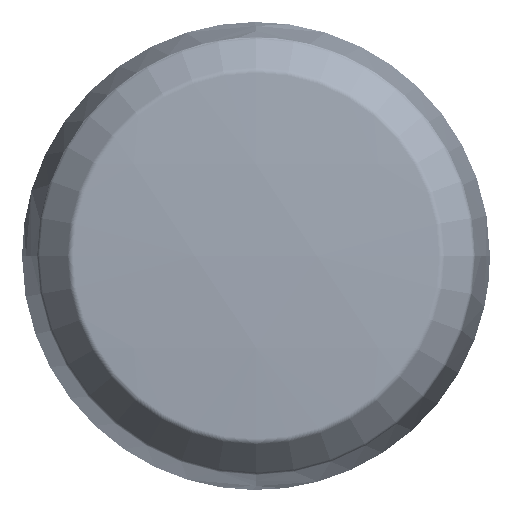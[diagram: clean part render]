
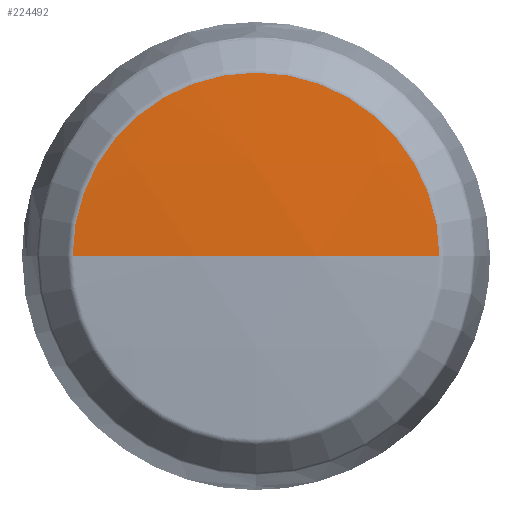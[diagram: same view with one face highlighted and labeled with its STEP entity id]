
A CAD part, front view. The second image highlights one B-rep face of the part: STEP entity #224492.
In plain terms, the highlighted spherical face has radius 885.7 mm.
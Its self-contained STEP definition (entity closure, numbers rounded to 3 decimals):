
#6696 = VERTEX_POINT ( 'NONE', #35010 ) ;
#10529 = DIRECTION ( 'NONE',  ( 0., 0., -1. ) ) ;
#19099 = DIRECTION ( 'NONE',  ( 0., 1., 0. ) ) ;
#22099 = SPHERICAL_SURFACE ( 'NONE', #34324, 885.7 ) ;
#34324 = AXIS2_PLACEMENT_3D ( 'NONE', #214310, #176498, #39292 ) ;
#35010 = CARTESIAN_POINT ( 'NONE',  ( -65.426, -55.18, 0. ) ) ;
#36272 = DIRECTION ( 'NONE',  ( -1., 0., 0. ) ) ;
#39292 = DIRECTION ( 'NONE',  ( 1., 0., 0. ) ) ;
#53395 = CARTESIAN_POINT ( 'NONE',  ( 0., -55.18, 0. ) ) ;
#73044 = ORIENTED_EDGE ( 'NONE', *, *, #162903, .F. ) ;
#80351 = DIRECTION ( 'NONE',  ( 0.074, -0.997, 0. ) ) ;
#99021 = CARTESIAN_POINT ( 'NONE',  ( 65.426, -55.18, 0. ) ) ;
#101118 = CIRCLE ( 'NONE', #185186, 65.426 ) ;
#146317 = EDGE_LOOP ( 'NONE', ( #73044, #223289 ) ) ;
#148840 = AXIS2_PLACEMENT_3D ( 'NONE', #184389, #10529, #80351 ) ;
#154861 = FACE_OUTER_BOUND ( 'NONE', #146317, .T. ) ;
#162903 = EDGE_CURVE ( 'NONE', #6696, #196096, #101118, .T. ) ;
#166938 = CIRCLE ( 'NONE', #148840, 885.7 ) ;
#176498 = DIRECTION ( 'NONE',  ( 0., 0., -1. ) ) ;
#177253 = EDGE_CURVE ( 'NONE', #196096, #6696, #166938, .T. ) ;
#184389 = CARTESIAN_POINT ( 'NONE',  ( 0., 828.1, 0. ) ) ;
#185186 = AXIS2_PLACEMENT_3D ( 'NONE', #53395, #19099, #36272 ) ;
#196096 = VERTEX_POINT ( 'NONE', #99021 ) ;
#214310 = CARTESIAN_POINT ( 'NONE',  ( 0., 828.1, 0. ) ) ;
#223289 = ORIENTED_EDGE ( 'NONE', *, *, #177253, .F. ) ;
#224492 = ADVANCED_FACE ( 'NONE', ( #154861 ), #22099, .T. ) ;
